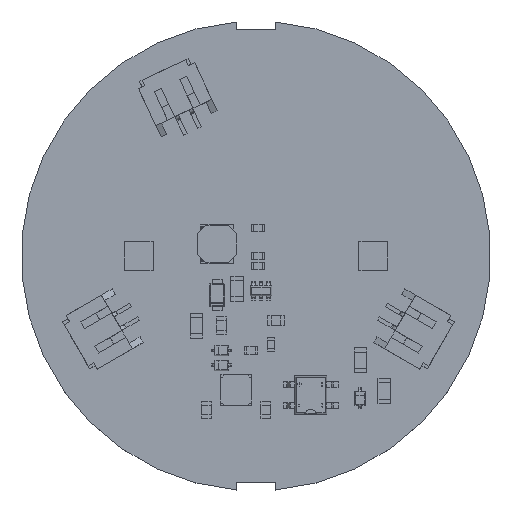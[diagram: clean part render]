
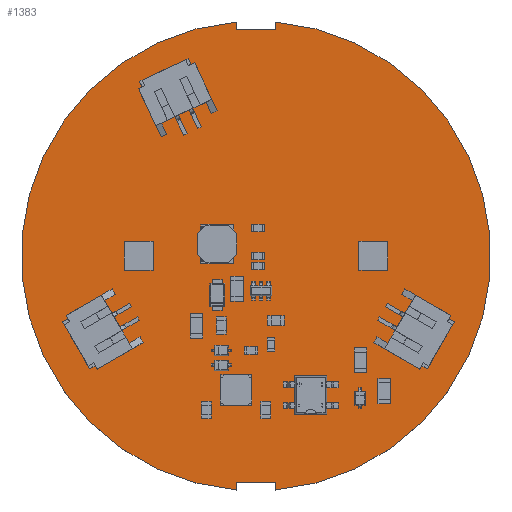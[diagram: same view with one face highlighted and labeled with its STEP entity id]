
A CAD part, top view. The second image highlights one B-rep face of the part: STEP entity #1383.
In plain terms, the highlighted planar face has unit normal (0, 0, 1).
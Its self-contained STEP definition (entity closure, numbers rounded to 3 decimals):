
#1383=ADVANCED_FACE('',(#3724),#3725,.F.);
#3724=FACE_OUTER_BOUND('',#7237,.T.);
#3725=PLANE('',#7238);
#7237=EDGE_LOOP('',(#16590,#16591,#16592,#16593,#16594,#16595,#16596,#16597));
#7238=AXIS2_PLACEMENT_3D('',#16598,#16599,#16600);
#16590=ORIENTED_EDGE('',*,*,#26303,.F.);
#16591=ORIENTED_EDGE('',*,*,#26304,.F.);
#16592=ORIENTED_EDGE('',*,*,#26305,.F.);
#16593=ORIENTED_EDGE('',*,*,#26306,.F.);
#16594=ORIENTED_EDGE('',*,*,#26307,.F.);
#16595=ORIENTED_EDGE('',*,*,#26308,.F.);
#16596=ORIENTED_EDGE('',*,*,#26309,.F.);
#16597=ORIENTED_EDGE('',*,*,#26310,.F.);
#16598=CARTESIAN_POINT('',(7900.,6800.,-1.38));
#16599=DIRECTION('',(-0.0,0.0,-1.0));
#16600=DIRECTION('',(-1.0,0.0,0.0));
#26303=EDGE_CURVE('',#30223,#30224,#30225,.T.);
#26304=EDGE_CURVE('',#30226,#30223,#30227,.T.);
#26305=EDGE_CURVE('',#30228,#30226,#30229,.T.);
#26306=EDGE_CURVE('',#30230,#30228,#30231,.T.);
#26307=EDGE_CURVE('',#30232,#30230,#30233,.T.);
#26308=EDGE_CURVE('',#30234,#30232,#30235,.T.);
#26309=EDGE_CURVE('',#30236,#30234,#30237,.T.);
#26310=EDGE_CURVE('',#30224,#30236,#30238,.T.);
#30223=VERTEX_POINT('',#35955);
#30224=VERTEX_POINT('',#35956);
#30225=CIRCLE('',#35957,1181.102);
#30226=VERTEX_POINT('',#35958);
#30227=LINE('',#35959,#35960);
#30228=VERTEX_POINT('',#35961);
#30229=LINE('',#35962,#35963);
#30230=VERTEX_POINT('',#35964);
#30231=LINE('',#35965,#35966);
#30232=VERTEX_POINT('',#35967);
#30233=CIRCLE('',#35968,1181.102);
#30234=VERTEX_POINT('',#35969);
#30235=LINE('',#35970,#35971);
#30236=VERTEX_POINT('',#35972);
#30237=LINE('',#35973,#35974);
#30238=LINE('',#35975,#35976);
#35955=CARTESIAN_POINT('',(7801.575,5623.006,-1.38));
#35956=CARTESIAN_POINT('',(7801.575,7976.994,-1.38));
#35957=AXIS2_PLACEMENT_3D('',#49477,#49478,#49479);
#35958=CARTESIAN_POINT('',(7801.575,5658.268,-1.38));
#35959=CARTESIAN_POINT('',(7801.575,5658.268,-1.38));
#35960=VECTOR('',#49480,1.0);
#35961=CARTESIAN_POINT('',(7998.425,5658.268,-1.38));
#35962=CARTESIAN_POINT('',(7998.425,5658.268,-1.38));
#35963=VECTOR('',#49481,1.0);
#35964=CARTESIAN_POINT('',(7998.425,5623.006,-1.38));
#35965=CARTESIAN_POINT('',(7998.425,5623.006,-1.38));
#35966=VECTOR('',#49482,1.0);
#35967=CARTESIAN_POINT('',(7998.425,7976.994,-1.38));
#35968=AXIS2_PLACEMENT_3D('',#49483,#49484,#49485);
#35969=CARTESIAN_POINT('',(7998.425,7941.732,-1.38));
#35970=CARTESIAN_POINT('',(7998.425,7941.732,-1.38));
#35971=VECTOR('',#49486,1.0);
#35972=CARTESIAN_POINT('',(7801.575,7941.732,-1.38));
#35973=CARTESIAN_POINT('',(7801.575,7941.732,-1.38));
#35974=VECTOR('',#49487,1.0);
#35975=CARTESIAN_POINT('',(7801.575,7976.994,-1.38));
#35976=VECTOR('',#49488,1.0);
#49477=CARTESIAN_POINT('',(7900.,6800.,-1.38));
#49478=DIRECTION('',(-0.0,0.0,-1.0));
#49479=DIRECTION('',(-0.083,-0.997,0.0));
#49480=DIRECTION('',(0.0,-1.0,0.0));
#49481=DIRECTION('',(-1.0,0.0,0.0));
#49482=DIRECTION('',(0.0,1.0,0.0));
#49483=CARTESIAN_POINT('',(7899.999,6800.,-1.38));
#49484=DIRECTION('',(0.0,0.0,-1.0));
#49485=DIRECTION('',(0.083,0.997,0.0));
#49486=DIRECTION('',(0.0,1.0,0.0));
#49487=DIRECTION('',(1.0,0.0,0.0));
#49488=DIRECTION('',(0.0,-1.0,0.0));
